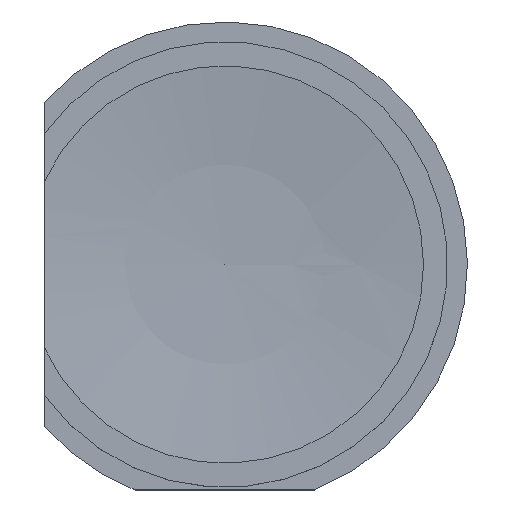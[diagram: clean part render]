
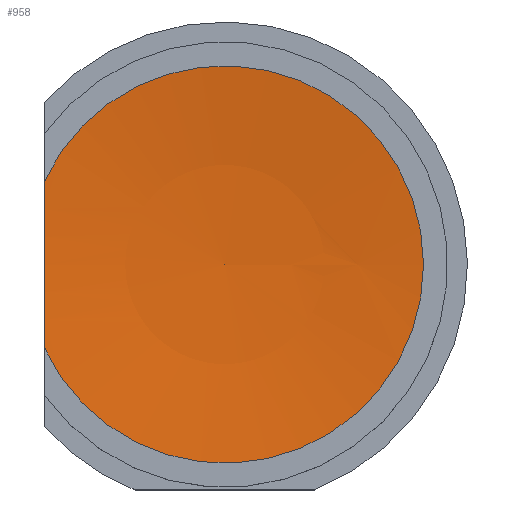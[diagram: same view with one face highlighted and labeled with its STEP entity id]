
A CAD part, top view. The second image highlights one B-rep face of the part: STEP entity #958.
In plain terms, the highlighted spherical face has radius 125.2 mm.
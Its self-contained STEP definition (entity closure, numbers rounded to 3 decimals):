
#105 = PLANE('',#106);
#106 = AXIS2_PLACEMENT_3D('',#107,#108,#109);
#107 = CARTESIAN_POINT('',(-13.6,-93.,-1.5));
#108 = DIRECTION('',(1.,0.,0.));
#109 = DIRECTION('',(0.,0.,1.));
#472 = VERTEX_POINT('',#473);
#473 = CARTESIAN_POINT('',(-13.6,-36.708,12.4));
#487 = PLANE('',#488);
#488 = AXIS2_PLACEMENT_3D('',#489,#490,#491);
#489 = CARTESIAN_POINT('',(0.,-43.,12.4));
#490 = DIRECTION('',(0.,0.,1.));
#491 = DIRECTION('',(1.,0.,-0.));
#499 = EDGE_CURVE('',#500,#472,#502,.T.);
#500 = VERTEX_POINT('',#501);
#501 = CARTESIAN_POINT('',(-13.6,-49.292,12.4));
#502 = SURFACE_CURVE('',#503,(#508,#515),.PCURVE_S1.);
#503 = CIRCLE('',#504,124.459);
#504 = AXIS2_PLACEMENT_3D('',#505,#506,#507);
#505 = CARTESIAN_POINT('',(-13.6,-43.,136.7));
#506 = DIRECTION('',(1.,0.,0.));
#507 = DIRECTION('',(-0.,0.,1.));
#508 = PCURVE('',#105,#509);
#509 = DEFINITIONAL_REPRESENTATION('',(#510),#514);
#510 = CIRCLE('',#511,124.459);
#511 = AXIS2_PLACEMENT_2D('',#512,#513);
#512 = CARTESIAN_POINT('',(138.2,-50.));
#513 = DIRECTION('',(1.,0.));
#514 = ( GEOMETRIC_REPRESENTATION_CONTEXT(2) 
PARAMETRIC_REPRESENTATION_CONTEXT() REPRESENTATION_CONTEXT('2D SPACE',''
  ) );
#515 = PCURVE('',#516,#521);
#516 = SPHERICAL_SURFACE('',#517,125.2);
#517 = AXIS2_PLACEMENT_3D('',#518,#519,#520);
#518 = CARTESIAN_POINT('',(0.,-43.,136.7));
#519 = DIRECTION('',(0.,0.,1.));
#520 = DIRECTION('',(1.,0.,0.));
#521 = DEFINITIONAL_REPRESENTATION('',(#522),#539);
#522 = B_SPLINE_CURVE_WITH_KNOTS('',8,(#523,#524,#525,#526,#527,#528,
    #529,#530,#531,#532,#533,#534,#535,#536,#537,#538),.UNSPECIFIED.,.F.
  ,.F.,(9,7,9),(3.091,3.142,3.192),
  .UNSPECIFIED.);
#523 = CARTESIAN_POINT('',(3.575,-1.451));
#524 = CARTESIAN_POINT('',(3.527,-1.453));
#525 = CARTESIAN_POINT('',(3.477,-1.456));
#526 = CARTESIAN_POINT('',(3.425,-1.458));
#527 = CARTESIAN_POINT('',(3.371,-1.459));
#528 = CARTESIAN_POINT('',(3.315,-1.461));
#529 = CARTESIAN_POINT('',(3.257,-1.462));
#530 = CARTESIAN_POINT('',(3.199,-1.462));
#531 = CARTESIAN_POINT('',(3.084,-1.462));
#532 = CARTESIAN_POINT('',(3.026,-1.462));
#533 = CARTESIAN_POINT('',(2.969,-1.461));
#534 = CARTESIAN_POINT('',(2.913,-1.459));
#535 = CARTESIAN_POINT('',(2.858,-1.458));
#536 = CARTESIAN_POINT('',(2.806,-1.456));
#537 = CARTESIAN_POINT('',(2.756,-1.453));
#538 = CARTESIAN_POINT('',(2.708,-1.451));
#539 = ( GEOMETRIC_REPRESENTATION_CONTEXT(2) 
PARAMETRIC_REPRESENTATION_CONTEXT() REPRESENTATION_CONTEXT('2D SPACE',''
  ) );
#913 = EDGE_CURVE('',#914,#472,#916,.T.);
#914 = VERTEX_POINT('',#915);
#915 = CARTESIAN_POINT('',(14.985,-43.,12.4));
#916 = SURFACE_CURVE('',#917,(#922,#929),.PCURVE_S1.);
#917 = CIRCLE('',#918,14.985);
#918 = AXIS2_PLACEMENT_3D('',#919,#920,#921);
#919 = CARTESIAN_POINT('',(0.,-43.,12.4));
#920 = DIRECTION('',(0.,0.,1.));
#921 = DIRECTION('',(1.,0.,-0.));
#922 = PCURVE('',#487,#923);
#923 = DEFINITIONAL_REPRESENTATION('',(#924),#928);
#924 = CIRCLE('',#925,14.985);
#925 = AXIS2_PLACEMENT_2D('',#926,#927);
#926 = CARTESIAN_POINT('',(0.,0.));
#927 = DIRECTION('',(1.,0.));
#928 = ( GEOMETRIC_REPRESENTATION_CONTEXT(2) 
PARAMETRIC_REPRESENTATION_CONTEXT() REPRESENTATION_CONTEXT('2D SPACE',''
  ) );
#929 = PCURVE('',#516,#930);
#930 = DEFINITIONAL_REPRESENTATION('',(#931),#935);
#931 = LINE('',#932,#933);
#932 = CARTESIAN_POINT('',(0.,-1.451));
#933 = VECTOR('',#934,1.);
#934 = DIRECTION('',(1.,0.));
#935 = ( GEOMETRIC_REPRESENTATION_CONTEXT(2) 
PARAMETRIC_REPRESENTATION_CONTEXT() REPRESENTATION_CONTEXT('2D SPACE',''
  ) );
#937 = EDGE_CURVE('',#500,#914,#938,.T.);
#938 = SURFACE_CURVE('',#939,(#944,#951),.PCURVE_S1.);
#939 = CIRCLE('',#940,14.985);
#940 = AXIS2_PLACEMENT_3D('',#941,#942,#943);
#941 = CARTESIAN_POINT('',(0.,-43.,12.4));
#942 = DIRECTION('',(0.,0.,1.));
#943 = DIRECTION('',(1.,0.,-0.));
#944 = PCURVE('',#487,#945);
#945 = DEFINITIONAL_REPRESENTATION('',(#946),#950);
#946 = CIRCLE('',#947,14.985);
#947 = AXIS2_PLACEMENT_2D('',#948,#949);
#948 = CARTESIAN_POINT('',(0.,0.));
#949 = DIRECTION('',(1.,0.));
#950 = ( GEOMETRIC_REPRESENTATION_CONTEXT(2) 
PARAMETRIC_REPRESENTATION_CONTEXT() REPRESENTATION_CONTEXT('2D SPACE',''
  ) );
#951 = PCURVE('',#516,#952);
#952 = DEFINITIONAL_REPRESENTATION('',(#953),#957);
#953 = LINE('',#954,#955);
#954 = CARTESIAN_POINT('',(0.,-1.451));
#955 = VECTOR('',#956,1.);
#956 = DIRECTION('',(1.,0.));
#957 = ( GEOMETRIC_REPRESENTATION_CONTEXT(2) 
PARAMETRIC_REPRESENTATION_CONTEXT() REPRESENTATION_CONTEXT('2D SPACE',''
  ) );
#958 = ADVANCED_FACE('',(#959),#516,.F.);
#959 = FACE_BOUND('',#960,.F.);
#960 = EDGE_LOOP('',(#961,#985,#986,#987,#988));
#961 = ORIENTED_EDGE('',*,*,#962,.T.);
#962 = EDGE_CURVE('',#963,#914,#965,.T.);
#963 = VERTEX_POINT('',#964);
#964 = CARTESIAN_POINT('',(0.,-43.,11.5));
#965 = SEAM_CURVE('',#966,(#971,#978),.PCURVE_S1.);
#966 = CIRCLE('',#967,125.2);
#967 = AXIS2_PLACEMENT_3D('',#968,#969,#970);
#968 = CARTESIAN_POINT('',(0.,-43.,136.7));
#969 = DIRECTION('',(0.,-1.,0.));
#970 = DIRECTION('',(1.,0.,0.));
#971 = PCURVE('',#516,#972);
#972 = DEFINITIONAL_REPRESENTATION('',(#973),#977);
#973 = LINE('',#974,#975);
#974 = CARTESIAN_POINT('',(6.283,-6.283));
#975 = VECTOR('',#976,1.);
#976 = DIRECTION('',(0.,1.));
#977 = ( GEOMETRIC_REPRESENTATION_CONTEXT(2) 
PARAMETRIC_REPRESENTATION_CONTEXT() REPRESENTATION_CONTEXT('2D SPACE',''
  ) );
#978 = PCURVE('',#516,#979);
#979 = DEFINITIONAL_REPRESENTATION('',(#980),#984);
#980 = LINE('',#981,#982);
#981 = CARTESIAN_POINT('',(0.,-6.283));
#982 = VECTOR('',#983,1.);
#983 = DIRECTION('',(0.,1.));
#984 = ( GEOMETRIC_REPRESENTATION_CONTEXT(2) 
PARAMETRIC_REPRESENTATION_CONTEXT() REPRESENTATION_CONTEXT('2D SPACE',''
  ) );
#985 = ORIENTED_EDGE('',*,*,#937,.F.);
#986 = ORIENTED_EDGE('',*,*,#499,.T.);
#987 = ORIENTED_EDGE('',*,*,#913,.F.);
#988 = ORIENTED_EDGE('',*,*,#962,.F.);
